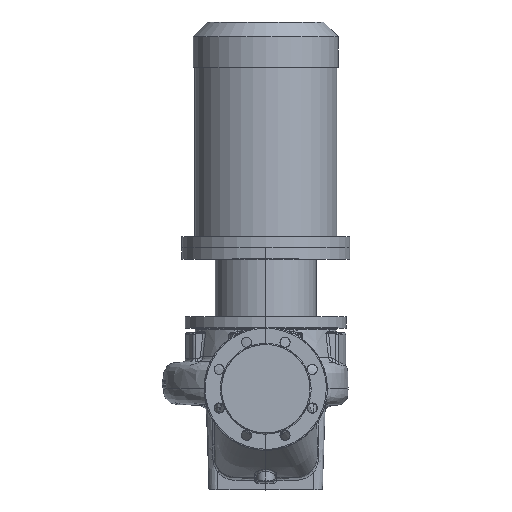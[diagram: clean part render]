
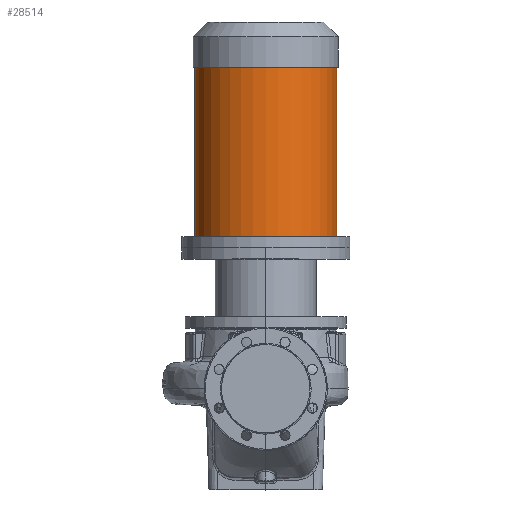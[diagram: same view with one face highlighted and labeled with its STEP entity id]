
A CAD part, top view. The second image highlights one B-rep face of the part: STEP entity #28514.
In plain terms, the highlighted cylindrical face has radius 126.5 mm (diameter 253 mm), a partial arc.
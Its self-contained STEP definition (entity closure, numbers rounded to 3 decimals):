
#6650 = ORIENTED_EDGE ( 'NONE', *, *, #56150, .F. ) ;
#11017 = CARTESIAN_POINT ( 'NONE',  ( 126.5, 271.8, 0. ) ) ;
#12069 = LINE ( 'NONE', #39033, #41829 ) ;
#12193 = EDGE_CURVE ( 'NONE', #15184, #39304, #73930, .T. ) ;
#13558 = VECTOR ( 'NONE', #27673, 1000. ) ;
#13905 = EDGE_LOOP ( 'NONE', ( #6650, #54508, #55804, #73445 ) ) ;
#15184 = VERTEX_POINT ( 'NONE', #11017 ) ;
#20686 = AXIS2_PLACEMENT_3D ( 'NONE', #70295, #71296, #36955 ) ;
#20972 = VERTEX_POINT ( 'NONE', #63115 ) ;
#21030 = CARTESIAN_POINT ( 'NONE',  ( -126.5, 573.8, 0. ) ) ;
#21559 = DIRECTION ( 'NONE',  ( 0., -1., 0. ) ) ;
#24252 = CARTESIAN_POINT ( 'NONE',  ( 0., 271.8, 0. ) ) ;
#26195 = EDGE_CURVE ( 'NONE', #40970, #39304, #12069, .T. ) ;
#26600 = EDGE_CURVE ( 'NONE', #20972, #40970, #39080, .T. ) ;
#27431 = CARTESIAN_POINT ( 'NONE',  ( 126.5, 251.8, 0. ) ) ;
#27673 = DIRECTION ( 'NONE',  ( 0., -1., 0. ) ) ;
#28514 = ADVANCED_FACE ( 'NONE', ( #58590 ), #61247, .T. ) ;
#33744 = AXIS2_PLACEMENT_3D ( 'NONE', #61201, #21559, #38438 ) ;
#36955 = DIRECTION ( 'NONE',  ( -1., 0., 0. ) ) ;
#38438 = DIRECTION ( 'NONE',  ( -1., 0., 0. ) ) ;
#39033 = CARTESIAN_POINT ( 'NONE',  ( -126.5, 251.8, 0. ) ) ;
#39080 = CIRCLE ( 'NONE', #20686, 126.5 ) ;
#39304 = VERTEX_POINT ( 'NONE', #67285 ) ;
#40970 = VERTEX_POINT ( 'NONE', #21030 ) ;
#41829 = VECTOR ( 'NONE', #61304, 1000. ) ;
#46411 = DIRECTION ( 'NONE',  ( 0., -1., 0. ) ) ;
#48835 = AXIS2_PLACEMENT_3D ( 'NONE', #24252, #46411, #70198 ) ;
#54508 = ORIENTED_EDGE ( 'NONE', *, *, #26600, .T. ) ;
#55804 = ORIENTED_EDGE ( 'NONE', *, *, #26195, .T. ) ;
#56150 = EDGE_CURVE ( 'NONE', #20972, #15184, #62948, .T. ) ;
#58590 = FACE_OUTER_BOUND ( 'NONE', #13905, .T. ) ;
#61201 = CARTESIAN_POINT ( 'NONE',  ( 0., 251.8, 0. ) ) ;
#61247 = CYLINDRICAL_SURFACE ( 'NONE', #33744, 126.5 ) ;
#61304 = DIRECTION ( 'NONE',  ( 0., -1., 0. ) ) ;
#62948 = LINE ( 'NONE', #27431, #13558 ) ;
#63115 = CARTESIAN_POINT ( 'NONE',  ( 126.5, 573.8, 0. ) ) ;
#67285 = CARTESIAN_POINT ( 'NONE',  ( -126.5, 271.8, 0. ) ) ;
#70198 = DIRECTION ( 'NONE',  ( -1., 0., 0. ) ) ;
#70295 = CARTESIAN_POINT ( 'NONE',  ( 0., 573.8, 0. ) ) ;
#71296 = DIRECTION ( 'NONE',  ( 0., -1., 0. ) ) ;
#73445 = ORIENTED_EDGE ( 'NONE', *, *, #12193, .F. ) ;
#73930 = CIRCLE ( 'NONE', #48835, 126.5 ) ;
